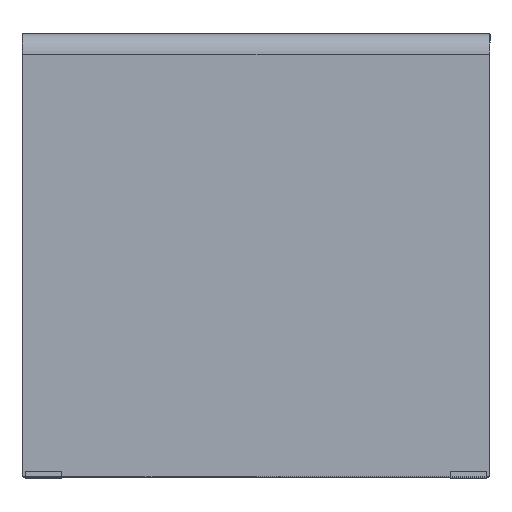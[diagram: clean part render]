
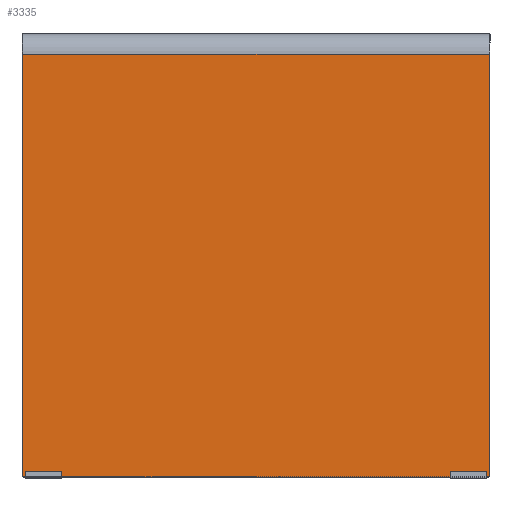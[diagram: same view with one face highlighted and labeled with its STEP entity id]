
A CAD part, left-side view. The second image highlights one B-rep face of the part: STEP entity #3335.
In plain terms, the highlighted planar face has unit normal (-1, 0, 0.009).
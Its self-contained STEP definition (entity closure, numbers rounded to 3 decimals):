
#73=CARTESIAN_POINT('',(-696.366,385.,-714.524));
#74=VERTEX_POINT('',#73);
#75=CARTESIAN_POINT('',(-696.366,325.,-714.524));
#76=VERTEX_POINT('',#75);
#77=CARTESIAN_POINT('',(-696.366,385.,-714.524));
#78=DIRECTION('',(0.0,-1.0,0.0));
#79=VECTOR('',#78,60.0);
#80=LINE('',#77,#79);
#81=EDGE_CURVE('',#74,#76,#80,.T.);
#115=CARTESIAN_POINT('',(-696.367,385.,-714.576));
#116=VERTEX_POINT('',#115);
#117=CARTESIAN_POINT('',(-696.367,385.,-714.576));
#118=DIRECTION('',(0.009,0.0,1.));
#119=VECTOR('',#118,0.053);
#120=LINE('',#117,#119);
#121=EDGE_CURVE('',#116,#74,#120,.T.);
#441=CARTESIAN_POINT('',(-696.367,325.,-714.576));
#442=VERTEX_POINT('',#441);
#443=CARTESIAN_POINT('',(-696.367,325.,-714.576));
#444=DIRECTION('',(0.0,1.0,0.0));
#445=VECTOR('',#444,60.0);
#446=LINE('',#443,#445);
#447=EDGE_CURVE('',#442,#116,#446,.T.);
#671=CARTESIAN_POINT('',(-696.366,325.,-714.524));
#672=DIRECTION('',(-0.009,0.0,-1.));
#673=VECTOR('',#672,0.053);
#674=LINE('',#671,#673);
#675=EDGE_CURVE('',#76,#442,#674,.T.);
#708=CARTESIAN_POINT('',(-696.366,-325.,-714.524));
#709=VERTEX_POINT('',#708);
#710=CARTESIAN_POINT('',(-696.366,-385.,-714.524));
#711=VERTEX_POINT('',#710);
#712=CARTESIAN_POINT('',(-696.366,-325.,-714.524));
#713=DIRECTION('',(0.0,-1.0,0.0));
#714=VECTOR('',#713,60.0);
#715=LINE('',#712,#714);
#716=EDGE_CURVE('',#709,#711,#715,.T.);
#750=CARTESIAN_POINT('',(-696.367,-325.0,-714.576));
#751=VERTEX_POINT('',#750);
#752=CARTESIAN_POINT('',(-696.367,-325.0,-714.576));
#753=DIRECTION('',(0.009,0.0,1.));
#754=VECTOR('',#753,0.053);
#755=LINE('',#752,#754);
#756=EDGE_CURVE('',#751,#709,#755,.T.);
#1107=CARTESIAN_POINT('',(-696.367,-385.0,-714.576));
#1108=VERTEX_POINT('',#1107);
#1109=CARTESIAN_POINT('',(-696.367,-385.0,-714.576));
#1110=DIRECTION('',(0.0,1.0,0.0));
#1111=VECTOR('',#1110,60.0);
#1112=LINE('',#1109,#1111);
#1113=EDGE_CURVE('',#1108,#751,#1112,.T.);
#1306=CARTESIAN_POINT('',(-696.366,-385.0,-714.524));
#1307=DIRECTION('',(-0.009,0.0,-1.));
#1308=VECTOR('',#1307,0.053);
#1309=LINE('',#1306,#1308);
#1310=EDGE_CURVE('',#711,#1108,#1309,.T.);
#2613=CARTESIAN_POINT('',(-696.414,-389.0,-719.972));
#2614=VERTEX_POINT('',#2613);
#2631=CARTESIAN_POINT('',(-690.303,-389.0,-19.695));
#2632=VERTEX_POINT('',#2631);
#2639=CARTESIAN_POINT('',(-690.303,-389.0,-19.695));
#2640=DIRECTION('',(-0.009,0.0,-1.));
#2641=VECTOR('',#2640,700.304);
#2642=LINE('',#2639,#2641);
#2643=EDGE_CURVE('',#2632,#2614,#2642,.T.);
#2653=CARTESIAN_POINT('',(-696.449,-385.0,-723.972));
#2654=VERTEX_POINT('',#2653);
#2669=CARTESIAN_POINT('',(-696.414,-385.0,-719.972));
#2670=DIRECTION('',(1.,0.,-0.009));
#2671=DIRECTION('',(-0.006,-0.707,-0.707));
#2672=AXIS2_PLACEMENT_3D('',#2669,#2670,#2671);
#2673=CIRCLE('',#2672,4.);
#2674=EDGE_CURVE('',#2614,#2654,#2673,.T.);
#2684=CARTESIAN_POINT('',(-696.449,385.,-723.972));
#2685=VERTEX_POINT('',#2684);
#2701=CARTESIAN_POINT('',(-696.449,-385.0,-723.972));
#2702=DIRECTION('',(0.0,1.0,0.0));
#2703=VECTOR('',#2702,770.0);
#2704=LINE('',#2701,#2703);
#2705=EDGE_CURVE('',#2654,#2685,#2704,.T.);
#2715=CARTESIAN_POINT('',(-696.414,389.,-719.972));
#2716=VERTEX_POINT('',#2715);
#2733=CARTESIAN_POINT('',(-696.414,385.,-719.972));
#2734=DIRECTION('',(1.,0.,-0.009));
#2735=DIRECTION('',(-0.006,0.707,-0.707));
#2736=AXIS2_PLACEMENT_3D('',#2733,#2734,#2735);
#2737=CIRCLE('',#2736,4.);
#2738=EDGE_CURVE('',#2685,#2716,#2737,.T.);
#2748=CARTESIAN_POINT('',(-690.303,389.,-19.695));
#2749=VERTEX_POINT('',#2748);
#2765=CARTESIAN_POINT('',(-696.414,389.,-719.972));
#2766=DIRECTION('',(0.009,0.,1.));
#2767=VECTOR('',#2766,700.304);
#2768=LINE('',#2765,#2767);
#2769=EDGE_CURVE('',#2716,#2749,#2768,.T.);
#3305=CARTESIAN_POINT('',(-693.199,0.,-351.558));
#3306=DIRECTION('',(-1.,0.,0.009));
#3307=DIRECTION('',(0.009,0.,1.));
#3308=AXIS2_PLACEMENT_3D('',#3305,#3306,#3307);
#3309=PLANE('',#3308);
#3310=ORIENTED_EDGE('',*,*,#2769,.F.);
#3311=ORIENTED_EDGE('',*,*,#2738,.F.);
#3312=ORIENTED_EDGE('',*,*,#2705,.F.);
#3313=ORIENTED_EDGE('',*,*,#2674,.F.);
#3314=ORIENTED_EDGE('',*,*,#2643,.F.);
#3315=CARTESIAN_POINT('',(-690.303,-389.0,-19.695));
#3316=DIRECTION('',(0.0,1.0,0.0));
#3317=VECTOR('',#3316,778.0);
#3318=LINE('',#3315,#3317);
#3319=EDGE_CURVE('',#2632,#2749,#3318,.T.);
#3320=ORIENTED_EDGE('',*,*,#3319,.T.);
#3321=EDGE_LOOP('',(#3310,#3311,#3312,#3313,#3314,#3320));
#3322=FACE_OUTER_BOUND('',#3321,.T.);
#3323=ORIENTED_EDGE('',*,*,#121,.T.);
#3324=ORIENTED_EDGE('',*,*,#81,.T.);
#3325=ORIENTED_EDGE('',*,*,#675,.T.);
#3326=ORIENTED_EDGE('',*,*,#447,.T.);
#3327=EDGE_LOOP('',(#3323,#3324,#3325,#3326));
#3328=FACE_BOUND('',#3327,.T.);
#3329=ORIENTED_EDGE('',*,*,#756,.T.);
#3330=ORIENTED_EDGE('',*,*,#716,.T.);
#3331=ORIENTED_EDGE('',*,*,#1310,.T.);
#3332=ORIENTED_EDGE('',*,*,#1113,.T.);
#3333=EDGE_LOOP('',(#3329,#3330,#3331,#3332));
#3334=FACE_BOUND('',#3333,.T.);
#3335=ADVANCED_FACE('',(#3322,#3328,#3334),#3309,.T.);
